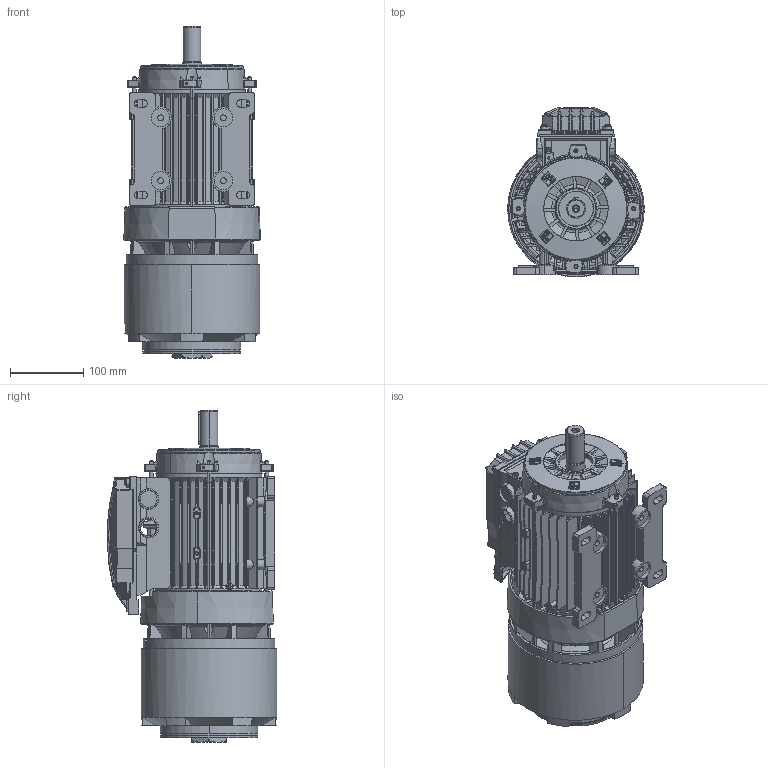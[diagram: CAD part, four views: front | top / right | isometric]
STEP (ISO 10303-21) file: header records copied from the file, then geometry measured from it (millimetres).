
FILE_DESCRIPTION (( 'STEP AP214' ), '1' );
FILE_NAME ('M08FA0011.STEP', '2024-05-30T12:16:21', ( '' ), ( '' ), 'SwSTEP 2.0', 'SolidWorks 2023', '' );
FILE_SCHEMA (( 'AUTOMOTIVE_DESIGN' ));
Length unit declared in the file: millimetre
Products named in the file (16): Convogliatore con pista d''attrito P2 BAH 90 - DDGY0018; Guarnizione Coperchio scatola 100-112 DI; Vite per coperchio morsettiera; Assieme coperchio scatola DI 100-112; Albero BA 90 L; Scudo lato freno BA 90 P1 - DI_Soluzione 2; Piedi riportati carcassa 90 (Da Catalogo); Tappo a testa Esagonale M40x1,5; M08FA0011; Chiavetta 90; Cuffia BAH 90 - DDGV0017; Scudo Lato Comando B3 BA-BM 90 - DDAD0094; Coperchio 100-112 DI; Tirante BA 90L - DBA60094; Carcassa 90 L B5 - DI
Assembly tree (21 placements, depth 3):
  M08FA0011
    Carcassa 90 L B5 - DI
    Scudo lato freno BA 90 P1 - DI_Soluzione 2
    Albero BA 90 L
    Chiavetta 90
    Convogliatore con pista d''attrito P2 BAH 90 - DDGY0018
    Tirante BA 90L - DBA60094  x4
    Assieme coperchio scatola DI 100-112
      Coperchio 100-112 DI
      Guarnizione Coperchio scatola 100-112 DI
      Vite per coperchio morsettiera  x4
    Cuffia BAH 90 - DDGV0017
    Tappo a testa Esagonale M40x1,5
    Piedi riportati carcassa 90 (Da Catalogo)
    Piedi riportati carcassa 90 (Da Catalogo)
    Scudo Lato Comando B3 BA-BM 90 - DDAD0094
Bounding box: 186.96 x 231.49 x 454 mm (x, y, z)
Volume: 2228668.1 mm3; surface area: 1049093 mm2
Topology: 24 solids, 24 shells, 4624 faces, 12367 edges, 7814 vertices
Faces by surface type: plane 1844, cylinder 1103, bspline 737, cone 487, torus 422, sphere 31
Entity records: 198905 total; most frequent: CARTESIAN_POINT 82644, ORIENTED_EDGE 23418, DIRECTION 18189, EDGE_CURVE 11709, VERTEX_POINT 7476, AXIS2_PLACEMENT_3D 6640, VECTOR 4909, LINE 4909
